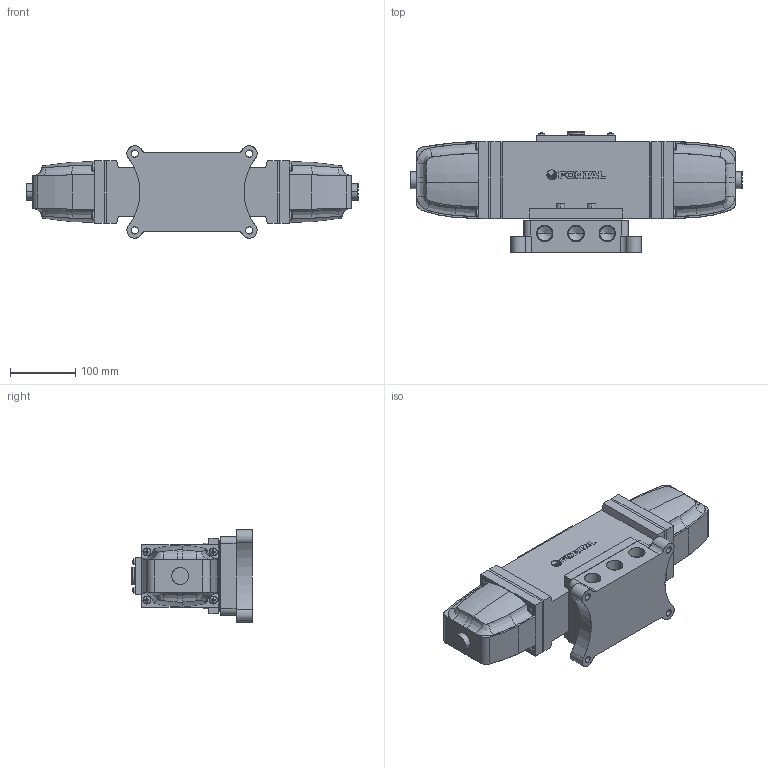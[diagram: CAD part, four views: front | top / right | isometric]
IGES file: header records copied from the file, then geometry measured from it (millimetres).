
Start section: SolidWorks IGES file using analytic representation for surfaces
Global section: file name: D:\Custom\3D繪製\A\A25\AD3425-06-##.IGS,1; native system: 5HSolidWorks 2014; preprocessor: SolidWorks 2014; author: Chieh_Lu; date: 151223.135410; units: millimetre
Bounding box: 509.8 x 185.5 x 142 mm (x, y, z)
Surface area: 460720.9 mm2 (no closed solid volume)
Topology: 0 solids, 0 shells, 855 faces, 9248 edges, 9206 vertices
Faces by surface type: bspline 548, revolution 307
